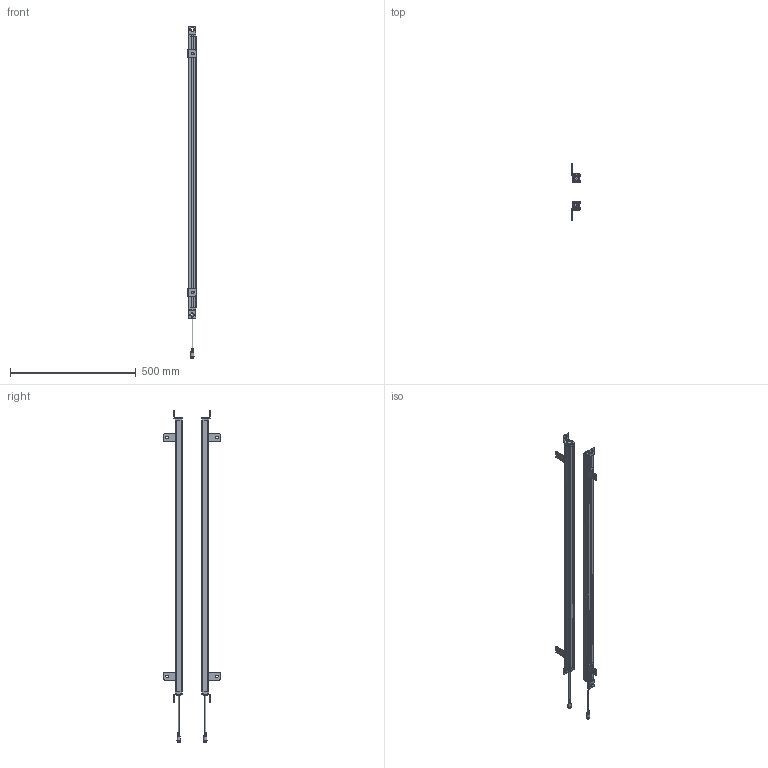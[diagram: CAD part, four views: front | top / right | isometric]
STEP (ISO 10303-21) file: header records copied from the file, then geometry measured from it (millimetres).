
FILE_DESCRIPTION(/* description */ (''),/* implementation_level */ '2;1');
FILE_NAME(/* name */ '5420（29x30）.stp',/* time_stamp */ '2023-04-28T14:34:30+08:00',/* author */ (''),/* organization */ (''),/* preprocessor_version */ 'ST-DEVELOPER v16.7',/* originating_system */ 'SIEMENS PLM Software NX 12.0',/* authorisation */ '');
FILE_SCHEMA (('AUTOMOTIVE_DESIGN { 1 0 10303 214 3 1 1 1 }'));
Products named in the file (1): 5420（29x30）_stp
Bounding box: 32.03 x 223.99 x 1321 mm (x, y, z)
Volume: 690285 mm3; surface area: 711838.3 mm2
Topology: 34 solids, 34 shells, 1610 faces, 4267 edges, 2771 vertices
Faces by surface type: plane 750, cylinder 648, bspline 88, sphere 36, cone 36, torus 32, extrusion 20
Full cylindrical faces by diameter (mm): 1.533 x6, 4.4 x4, 9 x2, 12.5 x2
Entity records: 56427 total; most frequent: CARTESIAN_POINT 16064, DIRECTION 8330, ORIENTED_EDGE 8324, EDGE_CURVE 4162, AXIS2_PLACEMENT_3D 2918, VERTEX_POINT 2696, VECTOR 2494, LINE 2474
